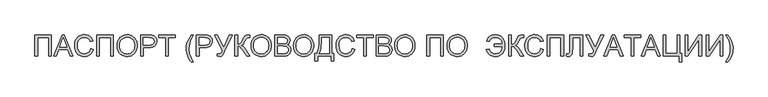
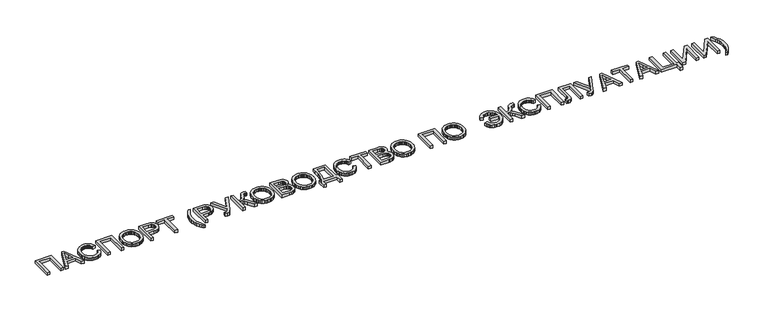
"""IFC4 building model written with IfcOpenShell, lengths in millimetres: proxy geometry, VALTEC_Ссылка : Ссылка на пасорт/Руководство по эксплуатации."""

from ifc_helpers import new_model, si_unit, origin, origin_with_axes, place, context, project, spatial, polyline, outline, extrude, source, transform, mapped, element, save


def generic_models_d957ce8c(model_context):
    return source(origin(), model_context, "Body", "SweptSolid", [
        extrude(outline(polyline([(-65.7596636, 265.5651274), (326.647798, 265.5651274), (326.647798, -236.7164233), (263.8626041, -236.7164233), (263.8626041, 202.7799336), (-2.9744697, 202.7799336), (-2.9744697, -236.7164233), (-65.7596636, -236.7164233), (-65.7596636, 265.5651274)])), origin_with_axes(), (0.0, 0.0, 1.0), 70.0),
        extrude(outline(polyline([(378.02865, -236.7164233), (578.5243373, 265.5651274), (631.989854, 265.5651274), (832.4855413, -236.7164233), (766.1441549, -236.7164233), (708.6319363, -79.7534387), (501.7596277, -79.7534387), (444.3700364, -236.7164233), (378.02865, -236.7164233)]), holes=[polyline([(524.813566, -16.9682449), (685.7006253, -16.9682449), (640.4511398, 106.5174782), (605.2570956, 202.7799336), (573.987126, 117.3086834), (524.813566, -16.9682449)])]), origin_with_axes(), (0.0, 0.0, 1.0), 70.0),
        extrude(outline(polyline([(1252.7294072, -58.1710283), (1315.514601, -74.3578361), (1303.0909194, -113.403145), (1286.5438939, -147.5203679), (1265.8735243, -176.709505), (1241.0798106, -200.9705561), (1212.7222402, -220.0429383), (1181.3603001, -233.6660684), (1146.9939904, -241.8399465), (1109.623311, -244.5645725), (1071.3367588, -242.5029005), (1036.7980044, -236.3178845), (1006.0070478, -226.0095244), (978.9638891, -211.5778203), (955.296814, -193.23737), (934.6341087, -171.2027713), (916.9757729, -145.4740243), (902.3218067, -116.0511289), (890.8139981, -84.2063437), (882.5941348, -51.2119272), (877.6622168, -17.0678796), (876.0182441, 18.2257993), (877.8768146, 56.0946522), (883.4525261, 91.4649732), (892.7453786, 124.3367623), (905.755372, 154.7100196), (922.1912666, 182.0827393), (941.7618223, 205.9529158), (964.4670392, 226.3205492), (990.3069173, 243.1856394), (1018.4039046, 256.4102307), (1047.8804495, 265.8563673), (1078.7365518, 271.5240493), (1110.9722117, 273.4132767), (1146.8828594, 270.9683942), (1179.81213, 263.633747), (1209.7600237, 251.4093348), (1236.7265404, 234.2951578), (1260.2671559, 212.7434043), (1279.9373464, 187.2062625), (1295.7371116, 157.6837323), (1307.6664518, 124.175814), (1244.8812579, 109.2152795), (1234.9944293, 133.9055263), (1223.1149065, 155.0012595), (1209.2426896, 172.502479), (1193.3777786, 186.4091848), (1175.4282029, 197.0049527), (1155.3019921, 204.5733583), (1132.9991461, 209.1144017), (1108.519665, 210.6280828), (1080.3536998, 208.9496212), (1054.5942959, 203.9142364), (1031.2414534, 195.5219284), (1010.2951723, 183.7726972), (992.0198678, 169.1953731), (976.679955, 152.3187866), (964.275434, 133.1429376), (954.8063047, 111.6678261), (942.8041546, 65.7132336), (938.8034379, 18.3484267), (943.5399186, -39.6543012), (957.7493607, -89.8088799), (968.5405659, -111.4641003), (981.9682587, -130.1992573), (998.0324392, -146.014351), (1016.7331072, -158.9093813), (1058.4110716, -176.0618794), (1103.3693171, -181.7793787), (1130.6653947, -179.8326698), (1155.777173, -173.9925431), (1178.7046519, -164.2589987), (1199.4478315, -150.6320364), (1217.5162024, -133.1729701), (1232.4192553, -111.9431133), (1244.1569902, -86.942466), (1252.7294072, -58.1710283)])), origin_with_axes(), (0.0, 0.0, 1.0), 70.0),
        extrude(outline(polyline([(1401.8442425, 265.5651274), (1794.2517041, 265.5651274), (1794.2517041, -236.7164233), (1731.4665102, -236.7164233), (1731.4665102, 202.7799336), (1464.6294364, 202.7799336), (1464.6294364, -236.7164233), (1401.8442425, -236.7164233), (1401.8442425, 265.5651274)])), origin_with_axes(), (0.0, 0.0, 1.0), 70.0),
        extrude(outline(polyline([(1880.5813456, 7.8024761), (1884.7660033, 66.7172448), (1897.3199764, 118.8721819), (1918.2432648, 164.2672872), (1947.5358687, 202.9025609), (1983.4426843, 233.7509991), (2024.2086079, 255.7855977), (2069.8336395, 269.0063569), (2120.3177791, 273.4132767), (2154.1092732, 271.3439404), (2186.1993131, 265.1359318), (2216.5878987, 254.7892507), (2245.2750301, 240.3038971), (2271.4559655, 222.116731), (2294.3259628, 200.6646121), (2313.8850222, 175.9475406), (2330.1331437, 147.9655163), (2342.9017146, 117.3546686), (2352.0221224, 84.7511268), (2357.4943671, 50.1548908), (2359.3184486, 13.5659607), (2357.3985645, -23.5058145), (2351.638912, -58.5695672), (2342.0394912, -91.6252973), (2328.600302, -122.6730048), (2311.6394092, -150.8926195), (2291.4748774, -175.4640711), (2268.1067065, -196.3873596), (2241.5348965, -213.662485), (2212.805612, -227.1821483), (2182.9650172, -236.8390506), (2152.0131123, -242.6331921), (2119.9498971, -244.5645725), (2085.568259, -242.4300906), (2053.0566877, -236.0266446), (2022.4151831, -225.3542346), (1993.6437454, -210.4128607), (1967.4934669, -191.7811704), (1944.7154401, -170.0378117), (1925.3096648, -145.1827844), (1909.2761412, -117.2160886), (1896.7221681, -87.2605307), (1887.7550445, -56.4389173), (1882.3747703, -24.7512483), (1880.5813456, 7.8024761)]), holes=[polyline([(1943.3665394, 7.1893395), (1946.5050327, -34.4349754), (1955.9205125, -71.3841233), (1971.6129789, -103.6581042), (1993.5824318, -131.256918), (2020.2883654, -153.3604946), (2050.1902738, -169.1487635), (2083.288157, -178.6217249), (2119.5820151, -181.7793787), (2156.4966741, -178.5910681), (2189.9854319, -169.0261362), (2220.0482887, -153.0845831), (2246.6852445, -130.7664087), (2268.493749, -102.585115), (2284.0712522, -69.054204), (2293.4177542, -30.1736756), (2296.5332548, 14.0564701), (2291.1989659, 69.6373082), (2275.1960991, 117.6765654), (2263.2974158, 138.5653649), (2248.9385217, 156.9632968), (2232.1194167, 172.870361), (2212.8401009, 186.2865575), (2191.6983825, 196.9359748), (2169.2920697, 204.5427015), (2145.6211626, 209.1067375), (2120.6856611, 210.6280828), (2085.6525653, 207.6965232), (2053.1486582, 198.9018442), (2023.1739398, 184.244046), (1995.7284101, 163.7231284), (1972.8200917, 136.3504087), (1956.4570071, 101.137204), (1946.6391563, 58.0835143), (1943.3665394, 7.1893395)])]), origin_with_axes(), (0.0, 0.0, 1.0), 70.0),
        extrude(outline(polyline([(2445.6480902, -236.7164233), (2445.6480902, 265.5651274), (2631.7963797, 265.5651274), (2706.8443068, 260.7826615), (2740.3062399, 251.8461947), (2767.8514043, 237.2995275), (2790.0316229, 216.4835379), (2807.3987188, 188.7391041), (2818.6191196, 156.012935), (2822.3592532, 120.2517393), (2819.8338966, 89.4186296), (2812.2578268, 61.0533949), (2799.6310437, 35.1560353), (2781.9535474, 11.7265508), (2757.6848321, -7.6945529), (2725.2843918, -21.5667698), (2684.7522265, -29.8900999), (2636.0883363, -32.6645433), (2508.433284, -32.6645433), (2508.433284, -236.7164233), (2445.6480902, -236.7164233)]), holes=[polyline([(2508.433284, 30.1206505), (2639.7671563, 30.1206505), (2669.9641367, 31.5615217), (2695.4399649, 35.8841351), (2716.1946408, 43.0884908), (2732.2281644, 53.1745889), (2744.1919935, 65.8741819), (2752.7375857, 80.9190227), (2757.864941, 98.3091112), (2759.5740594, 118.0444474), (2755.5426859, 146.2487337), (2743.4485653, 170.038436), (2724.7938824, 187.9420264), (2701.0808222, 198.487977), (2638.2956283, 202.7799336), (2508.433284, 202.7799336), (2508.433284, 30.1206505)])]), origin_with_axes(), (0.0, 0.0, 1.0), 70.0),
        extrude(outline(polyline([(3646.4149224, -377.9831095), (3621.0693858, -345.1879624), (3597.7625286, -309.7103425), (3557.2648523, -230.7076841), (3541.3309634, -188.1406715), (3529.9496141, -144.8072382), (3523.1208046, -100.707384), (3520.8445347, -55.841109), (3522.545989, -16.4087577), (3527.6503517, 22.1805308), (3536.1576228, 59.9267563), (3548.0678024, 96.829919), (3566.1706622, 139.1516768), (3588.5961355, 181.3814642), (3615.3442223, 223.5192811), (3646.4149224, 265.5651274), (3693.5038178, 265.5651274), (3634.7653259, 166.1143614), (3614.7157572, 118.9028387), (3599.4486544, 69.7292787), (3587.58446, 6.913428), (3583.6297286, -56.208991), (3585.3465112, -96.4575806), (3590.4968592, -136.6985059), (3599.0807724, -176.931767), (3611.0982509, -217.1573639), (3645.4339038, -297.5855651), (3693.5038178, -377.9831095), (3646.4149224, -377.9831095)])), origin_with_axes(), (0.0, 0.0, 1.0), 70.0),
        extrude(outline(polyline([(3764.1371609, -236.7164233), (3764.1371609, 265.5651274), (3950.2854504, 265.5651274), (4025.3333775, 260.7826615), (4058.7953106, 251.8461947), (4086.340475, 237.2995275), (4108.5206936, 216.4835379), (4125.8877895, 188.7391041), (4137.1081903, 156.012935), (4140.848324, 120.2517393), (4138.3229673, 89.4186296), (4130.7468975, 61.0533949), (4118.1201144, 35.1560353), (4100.4426181, 11.7265508), (4076.1739028, -7.6945529), (4043.7734625, -21.5667698), (4003.2412972, -29.8900999), (3954.5774071, -32.6645433), (3826.9223547, -32.6645433), (3826.9223547, -236.7164233), (3764.1371609, -236.7164233)]), holes=[polyline([(3826.9223547, 30.1206505), (3958.256227, 30.1206505), (3988.4532074, 31.5615217), (4013.9290356, 35.8841351), (4034.6837115, 43.0884908), (4050.7172351, 53.1745889), (4062.6810642, 65.8741819), (4071.2266564, 80.9190227), (4076.3540117, 98.3091112), (4078.0631301, 118.0444474), (4074.0317566, 146.2487337), (4061.937636, 170.038436), (4043.2829531, 187.9420264), (4019.5698929, 198.487977), (3956.784699, 202.7799336), (3826.9223547, 202.7799336), (3826.9223547, 30.1206505)])]), origin_with_axes(), (0.0, 0.0, 1.0), 70.0),
        extrude(outline(polyline([(4191.8612939, 265.5651274), (4261.390991, 265.5651274), (4411.6094724, -31.9287793), (4546.744792, 265.5651274), (4615.6613524, 265.5651274), (4424.9758516, -125.7386881), (4396.1890854, -186.500531), (4373.1044902, -221.8785162), (4361.8917536, -231.8036658), (4348.4870534, -238.8930585), (4315.1017623, -244.5645725), (4258.5705624, -236.7164233), (4258.5705624, -181.7793787), (4307.9893771, -181.7793787), (4327.7630343, -178.2844997), (4344.6549493, -167.7998629), (4360.8724139, -144.8992087), (4378.6227202, -104.1562777), (4191.8612939, 265.5651274)])), origin_with_axes(), (0.0, 0.0, 1.0), 70.0),
        extrude(outline(polyline([(4674.5224716, 265.5651274), (4737.3076655, 265.5651274), (4737.3076655, 45.816949), (4779.8133643, 49.9709498), (4795.5134949, 55.1634509), (4807.5118129, 62.4329524), (4829.9066293, 91.7562131), (4856.5014319, 146.4939883), (4875.5853104, 188.8157462), (4891.1436531, 216.6981357), (4907.8516271, 235.7207006), (4930.3843993, 251.4629843), (4957.132486, 262.0395916), (4986.4864035, 265.5651274), (5027.689187, 264.8293634), (5027.689187, 202.0441696), (5013.8322985, 202.4120516), (4999.97541, 202.7799336), (4971.2193007, 199.0091431), (4950.9244773, 187.6967718), (4933.4500826, 163.9377263), (4913.6457685, 123.072168), (4889.3502284, 72.1818253), (4869.1933607, 44.345421), (4849.3124046, 29.6914549), (4825.844599, 18.3484267), (4850.1631317, 8.0017456), (4874.3130518, -10.0398006), (4898.2943594, -35.7762119), (4922.1070544, -69.2074882), (5027.689187, -236.7164233), (4954.8485519, -236.7164233), (4865.5758544, -95.2044825), (4831.1022458, -49.8170414), (4802.7293469, -21.3215151), (4773.7126546, -6.2843386), (4737.3076655, -1.2719464), (4737.3076655, -236.7164233), (4674.5224716, -236.7164233), (4674.5224716, 265.5651274)])), origin_with_axes(), (0.0, 0.0, 1.0), 70.0),
        extrude(outline(polyline([(5059.0817839, 7.8024761), (5063.2664416, 66.7172448), (5075.8204147, 118.8721819), (5096.7437032, 164.2672872), (5126.036307, 202.9025609), (5161.9431226, 233.7509991), (5202.7090462, 255.7855977), (5248.3340778, 269.0063569), (5298.8182174, 273.4132767), (5332.6097115, 271.3439404), (5364.6997514, 265.1359318), (5395.088337, 254.7892507), (5423.7754685, 240.3038971), (5449.9564038, 222.116731), (5472.8264012, 200.6646121), (5492.3854606, 175.9475406), (5508.633582, 147.9655163), (5521.4021529, 117.3546686), (5530.5225607, 84.7511268), (5535.9948054, 50.1548908), (5537.818887, 13.5659607), (5535.8990028, -23.5058145), (5530.1393503, -58.5695672), (5520.5399295, -91.6252973), (5507.1007404, -122.6730048), (5490.1398476, -150.8926195), (5469.9753157, -175.4640711), (5446.6071448, -196.3873596), (5420.0353348, -213.662485), (5391.3060503, -227.1821483), (5361.4654555, -236.8390506), (5330.5135506, -242.6331921), (5298.4503354, -244.5645725), (5264.0686973, -242.4300906), (5231.557126, -236.0266446), (5200.9156215, -225.3542346), (5172.1441838, -210.4128607), (5145.9939053, -191.7811704), (5123.2158784, -170.0378117), (5103.8101032, -145.1827844), (5087.7765795, -117.2160886), (5075.2226065, -87.2605307), (5066.2554828, -56.4389173), (5060.8752086, -24.7512483), (5059.0817839, 7.8024761)]), holes=[polyline([(5121.8669778, 7.1893395), (5125.005471, -34.4349754), (5134.4209508, -71.3841233), (5150.1134172, -103.6581042), (5172.0828701, -131.256918), (5198.7888037, -153.3604946), (5228.6907121, -169.1487635), (5261.7885954, -178.6217249), (5298.0824534, -181.7793787), (5334.9971124, -178.5910681), (5368.4858703, -169.0261362), (5398.5487271, -153.0845831), (5425.1856828, -130.7664087), (5446.9941873, -102.585115), (5462.5716905, -69.054204), (5471.9181925, -30.1736756), (5475.0336931, 14.0564701), (5469.6994042, 69.6373082), (5453.6965374, 117.6765654), (5441.7978541, 138.5653649), (5427.43896, 156.9632968), (5410.619855, 172.870361), (5391.3405392, 186.2865575), (5370.1988208, 196.9359748), (5347.792508, 204.5427015), (5324.1216009, 209.1067375), (5299.1860994, 210.6280828), (5264.1530036, 207.6965232), (5231.6490965, 198.9018442), (5201.6743781, 184.244046), (5174.2288484, 163.7231284), (5151.32053, 136.3504087), (5134.9574454, 101.137204), (5125.1395947, 58.0835143), (5121.8669778, 7.1893395)])]), origin_with_axes(), (0.0, 0.0, 1.0), 70.0),
        extrude(outline(polyline([(5624.1485285, -236.7164233), (5624.1485285, 265.5651274), (5815.815048, 265.5651274), (5868.5294722, 261.8709791), (5909.6862704, 250.788534), (5941.2321515, 232.0418806), (5965.1138244, 205.3551076), (5980.1510009, 173.9625106), (5985.1633931, 141.0983857), (5980.9480786, 110.85542), (5968.302135, 82.4212075), (5947.1335919, 57.5431876), (5917.3504787, 37.9687997), (5936.3002335, 29.8907243), (5952.9277333, 19.390759), (5967.2329779, 6.4689039), (5979.2159675, -8.874841), (5995.4487606, -44.9579333), (6000.8596916, -86.9884513), (5997.1655432, -122.0138829), (5986.0830981, -154.4947974), (5969.5437367, -182.1166039), (5949.4788396, -202.5647114), (5924.907388, -217.3719617), (5894.8483633, -228.0711964), (5858.3207469, -234.5551166), (5814.34352, -236.7164233), (5624.1485285, -236.7164233)]), holes=[polyline([(5686.9337223, 61.5132474), (5801.5902775, 61.5132474), (5841.689415, 62.8621481), (5868.5448006, 66.90885), (5891.9819494, 76.2131988), (5908.8278791, 90.1467294), (5918.9906192, 108.4948439), (5922.3781993, 131.0429445), (5919.2205455, 152.9319232), (5909.7475841, 172.0004733), (5894.3885108, 186.8843657), (5873.5725212, 196.2193713), (5841.6281013, 201.139793), (5792.883737, 202.7799336), (5686.9337223, 202.7799336), (5686.9337223, 61.5132474)]), polyline([(5686.9337223, -173.9312295), (5815.6924207, -173.9312295), (5862.2908067, -171.4786828), (5883.9192023, -166.037095), (5901.7154939, -157.8057354), (5916.185519, -146.0181831), (5927.8351155, -129.9080174), (5935.5146522, -110.1956738), (5938.0744977, -87.6015879), (5935.0701281, -61.3593389), (5926.0570192, -38.7959099), (5910.3147355, -21.1529026), (5887.1228414, -9.6719186), (5854.2740449, -3.3719395), (5809.5610541, -1.2719464), (5686.9337223, -1.2719464), (5686.9337223, -173.9312295)])]), origin_with_axes(), (0.0, 0.0, 1.0), 70.0),
        extrude(outline(polyline([(6063.6448854, 7.8024761), (6067.8295431, 66.7172448), (6080.3835162, 118.8721819), (6101.3068047, 164.2672872), (6130.5994085, 202.9025609), (6166.5062241, 233.7509991), (6207.2721477, 255.7855977), (6252.8971793, 269.0063569), (6303.3813189, 273.4132767), (6337.172813, 271.3439404), (6369.2628529, 265.1359318), (6399.6514385, 254.7892507), (6428.33857, 240.3038971), (6454.5195053, 222.116731), (6477.3895027, 200.6646121), (6496.9485621, 175.9475406), (6513.1966835, 147.9655163), (6525.9652544, 117.3546686), (6535.0856622, 84.7511268), (6540.5579069, 50.1548908), (6542.3819885, 13.5659607), (6540.4621043, -23.5058145), (6534.7024518, -58.5695672), (6525.103031, -91.6252973), (6511.6638419, -122.6730048), (6494.702949, -150.8926195), (6474.5384172, -175.4640711), (6451.1702463, -196.3873596), (6424.5984363, -213.662485), (6395.8691518, -227.1821483), (6366.028557, -236.8390506), (6335.0766521, -242.6331921), (6303.0134369, -244.5645725), (6268.6317988, -242.4300906), (6236.1202275, -236.0266446), (6205.478723, -225.3542346), (6176.7072853, -210.4128607), (6150.5570068, -191.7811704), (6127.7789799, -170.0378117), (6108.3732047, -145.1827844), (6092.339681, -117.2160886), (6079.7857079, -87.2605307), (6070.8185843, -56.4389173), (6065.4383101, -24.7512483), (6063.6448854, 7.8024761)]), holes=[polyline([(6126.4300793, 7.1893395), (6129.5685725, -34.4349754), (6138.9840523, -71.3841233), (6154.6765187, -103.6581042), (6176.6459716, -131.256918), (6203.3519052, -153.3604946), (6233.2538136, -169.1487635), (6266.3516969, -178.6217249), (6302.6455549, -181.7793787), (6339.5602139, -178.5910681), (6373.0489718, -169.0261362), (6403.1118286, -153.0845831), (6429.7487843, -130.7664087), (6451.5572888, -102.585115), (6467.134792, -69.054204), (6476.481294, -30.1736756), (6479.5967946, 14.0564701), (6474.2625057, 69.6373082), (6458.2596389, 117.6765654), (6446.3609556, 138.5653649), (6432.0020615, 156.9632968), (6415.1829565, 172.870361), (6395.9036407, 186.2865575), (6374.7619223, 196.9359748), (6352.3556095, 204.5427015), (6328.6847024, 209.1067375), (6303.7492009, 210.6280828), (6268.7161051, 207.6965232), (6236.212198, 198.9018442), (6206.2374796, 184.244046), (6178.7919499, 163.7231284), (6155.8836315, 136.3504087), (6139.5205469, 101.137204), (6129.7026962, 58.0835143), (6126.4300793, 7.1893395)])]), origin_with_axes(), (0.0, 0.0, 1.0), 70.0),
        extrude(outline(polyline([(6675.8005254, 265.5651274), (6974.0301961, 265.5651274), (6974.0301961, -173.9312295), (7021.1190915, -173.9312295), (7021.1190915, -354.4386618), (6958.3338977, -354.4386618), (6958.3338977, -236.7164233), (6636.5597792, -236.7164233), (6636.5597792, -354.4386618), (6573.7745854, -354.4386618), (6573.7745854, -173.9312295), (6613.0153315, -173.9312295), (6627.7306113, -148.3500184), (6640.4838538, -116.9784981), (6651.275059, -79.8166684), (6660.1042269, -36.8645294), (6671.8764508, 66.4106765), (6675.8005254, 192.8471197), (6675.8005254, 265.5651274)]), holes=[polyline([(6911.2450023, 202.7799336), (6738.5857192, 202.7799336), (6738.5857192, 177.5187033), (6735.3974086, 103.0532561), (6725.8324767, 5.4725568), (6717.9230138, -46.6670518), (6706.9478676, -93.9475524), (6692.9070382, -136.3689449), (6675.8005254, -173.9312295), (6911.2450023, -173.9312295), (6911.2450023, 202.7799336)])]), origin_with_axes(), (0.0, 0.0, 1.0), 70.0),
        extrude(outline(polyline([(7452.7672992, -58.1710283), (7515.552493, -74.3578361), (7503.1288115, -113.403145), (7486.5817859, -147.5203679), (7465.9114163, -176.709505), (7441.1177027, -200.9705561), (7412.7601322, -220.0429383), (7381.3981921, -233.6660684), (7347.0318824, -241.8399465), (7309.6612031, -244.5645725), (7271.3746508, -242.5029005), (7236.8358964, -236.3178845), (7206.0449399, -226.0095244), (7179.0017811, -211.5778203), (7155.3347061, -193.23737), (7134.6720007, -171.2027713), (7117.0136649, -145.4740243), (7102.3596988, -116.0511289), (7090.8518901, -84.2063437), (7082.6320268, -51.2119272), (7077.7001088, -17.0678796), (7076.0561361, 18.2257993), (7077.9147066, 56.0946522), (7083.4904181, 91.4649732), (7092.7832706, 124.3367623), (7105.7932641, 154.7100196), (7122.2291586, 182.0827393), (7141.7997144, 205.9529158), (7164.5049312, 226.3205492), (7190.3448093, 243.1856394), (7218.4417967, 256.4102307), (7247.9183415, 265.8563673), (7278.7744439, 271.5240493), (7311.0101037, 273.4132767), (7346.9207514, 270.9683942), (7379.8500221, 263.633747), (7409.7979157, 251.4093348), (7436.7644324, 234.2951578), (7460.305048, 212.7434043), (7479.9752384, 187.2062625), (7495.7750037, 157.6837323), (7507.7043438, 124.175814), (7444.91915, 109.2152795), (7435.0323213, 133.9055263), (7423.1527986, 155.0012595), (7409.2805817, 172.502479), (7393.4156706, 186.4091848), (7375.466095, 197.0049527), (7355.3398841, 204.5733583), (7333.0370382, 209.1144017), (7308.5575571, 210.6280828), (7280.3915918, 208.9496212), (7254.632188, 203.9142364), (7231.2793455, 195.5219284), (7210.3330644, 183.7726972), (7192.0577598, 169.1953731), (7176.7178471, 152.3187866), (7164.313326, 133.1429376), (7154.8441968, 111.6678261), (7142.8420467, 65.7132336), (7138.84133, 18.3484267), (7143.5778107, -39.6543012), (7157.7872527, -89.8088799), (7168.5784579, -111.4641003), (7182.0061507, -130.1992573), (7198.0703312, -146.014351), (7216.7709993, -158.9093813), (7258.4489637, -176.0618794), (7303.4072092, -181.7793787), (7330.7032868, -179.8326698), (7355.8150651, -173.9925431), (7378.742544, -164.2589987), (7399.4857236, -150.6320364), (7417.5540945, -133.1729701), (7432.4571474, -111.9431133), (7444.1948823, -86.942466), (7452.7672992, -58.1710283)])), origin_with_axes(), (0.0, 0.0, 1.0), 70.0),
        extrude(outline(polyline([(7727.4525223, -236.7164233), (7727.4525223, 202.7799336), (7562.6413884, 202.7799336), (7562.6413884, 265.5651274), (7955.0488499, 265.5651274), (7955.0488499, 202.7799336), (7790.2377161, 202.7799336), (7790.2377161, -236.7164233), (7727.4525223, -236.7164233)])), origin_with_axes(), (0.0, 0.0, 1.0), 70.0),
        extrude(outline(polyline([(8025.682193, -236.7164233), (8025.682193, 265.5651274), (8217.3487125, 265.5651274), (8270.0631367, 261.8709791), (8311.2199349, 250.788534), (8342.765816, 232.0418806), (8366.6474889, 205.3551076), (8381.6846654, 173.9625106), (8386.6970576, 141.0983857), (8382.4817431, 110.85542), (8369.8357995, 82.4212075), (8348.6672564, 57.5431876), (8318.8841432, 37.9687997), (8337.833898, 29.8907243), (8354.4613978, 19.390759), (8368.7666425, 6.4689039), (8380.749632, -8.874841), (8396.9824251, -44.9579333), (8402.3933561, -86.9884513), (8398.6992077, -122.0138829), (8387.6167626, -154.4947974), (8371.0774012, -182.1166039), (8351.0125041, -202.5647114), (8326.4410525, -217.3719617), (8296.3820278, -228.0711964), (8259.8544114, -234.5551166), (8215.8771845, -236.7164233), (8025.682193, -236.7164233)]), holes=[polyline([(8088.4673869, 61.5132474), (8203.123942, 61.5132474), (8243.2230795, 62.8621481), (8270.0784651, 66.90885), (8293.5156139, 76.2131988), (8310.3615436, 90.1467294), (8320.5242837, 108.4948439), (8323.9118638, 131.0429445), (8320.75421, 152.9319232), (8311.2812486, 172.0004733), (8295.9221753, 186.8843657), (8275.1061857, 196.2193713), (8243.1617658, 201.139793), (8194.4174015, 202.7799336), (8088.4673869, 202.7799336), (8088.4673869, 61.5132474)]), polyline([(8088.4673869, -173.9312295), (8217.2260852, -173.9312295), (8263.8244712, -171.4786828), (8285.4528669, -166.037095), (8303.2491584, -157.8057354), (8317.7191835, -146.0181831), (8329.36878, -129.9080174), (8337.0483167, -110.1956738), (8339.6081622, -87.6015879), (8336.6037926, -61.3593389), (8327.5906837, -38.7959099), (8311.8484, -21.1529026), (8288.6565059, -9.6719186), (8255.8077094, -3.3719395), (8211.0947186, -1.2719464), (8088.4673869, -1.2719464), (8088.4673869, -173.9312295)])]), origin_with_axes(), (0.0, 0.0, 1.0), 70.0),
        extrude(outline(polyline([(8465.1785499, 7.8024761), (8469.3632076, 66.7172448), (8481.9171807, 118.8721819), (8502.8404692, 164.2672872), (8532.133073, 202.9025609), (8568.0398886, 233.7509991), (8608.8058122, 255.7855977), (8654.4308438, 269.0063569), (8704.9149834, 273.4132767), (8738.7064775, 271.3439404), (8770.7965174, 265.1359318), (8801.1851031, 254.7892507), (8829.8722345, 240.3038971), (8856.0531698, 222.116731), (8878.9231672, 200.6646121), (8898.4822266, 175.9475406), (8914.730348, 147.9655163), (8927.4989189, 117.3546686), (8936.6193267, 84.7511268), (8942.0915714, 50.1548908), (8943.915653, 13.5659607), (8941.9957688, -23.5058145), (8936.2361163, -58.5695672), (8926.6366955, -91.6252973), (8913.1975064, -122.6730048), (8896.2366136, -150.8926195), (8876.0720817, -175.4640711), (8852.7039108, -196.3873596), (8826.1321009, -213.662485), (8797.4028163, -227.1821483), (8767.5622215, -236.8390506), (8736.6103166, -242.6331921), (8704.5471015, -244.5645725), (8670.1654633, -242.4300906), (8637.653892, -236.0266446), (8607.0123875, -225.3542346), (8578.2409498, -210.4128607), (8552.0906713, -191.7811704), (8529.3126444, -170.0378117), (8509.9068692, -145.1827844), (8493.8733455, -117.2160886), (8481.3193725, -87.2605307), (8472.3522488, -56.4389173), (8466.9719746, -24.7512483), (8465.1785499, 7.8024761)]), holes=[polyline([(8527.9637438, 7.1893395), (8531.102237, -34.4349754), (8540.5177169, -71.3841233), (8556.2101832, -103.6581042), (8578.1796361, -131.256918), (8604.8855697, -153.3604946), (8634.7874781, -169.1487635), (8667.8853614, -178.6217249), (8704.1792195, -181.7793787), (8741.0938784, -178.5910681), (8774.5826363, -169.0261362), (8804.6454931, -153.0845831), (8831.2824488, -130.7664087), (8853.0909533, -102.585115), (8868.6684565, -69.054204), (8878.0149585, -30.1736756), (8881.1304591, 14.0564701), (8875.7961702, 69.6373082), (8859.7933034, 117.6765654), (8847.8946201, 138.5653649), (8833.535726, 156.9632968), (8816.716621, 172.870361), (8797.4373052, 186.2865575), (8776.2955868, 196.9359748), (8753.8892741, 204.5427015), (8730.2183669, 209.1067375), (8705.2828654, 210.6280828), (8670.2497696, 207.6965232), (8637.7458625, 198.9018442), (8607.7711441, 184.244046), (8580.3256144, 163.7231284), (8557.417296, 136.3504087), (8541.0542114, 101.137204), (8531.2363607, 58.0835143), (8527.9637438, 7.1893395)])]), origin_with_axes(), (0.0, 0.0, 1.0), 70.0),
        extrude(outline(polyline([(9705.1861283, 7.8024761), (9709.370786, 66.7172448), (9721.9247591, 118.8721819), (9742.8480476, 164.2672872), (9772.1406515, 202.9025609), (9808.047467, 233.7509991), (9848.8133906, 255.7855977), (9894.4384222, 269.0063569), (9944.9225619, 273.4132767), (9978.714056, 271.3439404), (10010.8040958, 265.1359318), (10041.1926815, 254.7892507), (10069.8798129, 240.3038971), (10096.0607482, 222.116731), (10118.9307456, 200.6646121), (10138.489805, 175.9475406), (10154.7379264, 147.9655163), (10167.5064974, 117.3546686), (10176.6269052, 84.7511268), (10182.0991498, 50.1548908), (10183.9232314, 13.5659607), (10182.0033472, -23.5058145), (10176.2436947, -58.5695672), (10166.6442739, -91.6252973), (10153.2050848, -122.6730048), (10136.244192, -150.8926195), (10116.0796601, -175.4640711), (10092.7114892, -196.3873596), (10066.1396793, -213.662485), (10037.4103947, -227.1821483), (10007.5698, -236.8390506), (9976.617895, -242.6331921), (9944.5546799, -244.5645725), (9910.1730417, -242.4300906), (9877.6614704, -236.0266446), (9847.0199659, -225.3542346), (9818.2485282, -210.4128607), (9792.0982497, -191.7811704), (9769.3202228, -170.0378117), (9749.9144476, -145.1827844), (9733.880924, -117.2160886), (9721.3269509, -87.2605307), (9712.3598272, -56.4389173), (9706.9795531, -24.7512483), (9705.1861283, 7.8024761)]), holes=[polyline([(9767.9713222, 7.1893395), (9771.1098154, -34.4349754), (9780.5252953, -71.3841233), (9796.2177616, -103.6581042), (9818.1872145, -131.256918), (9844.8931481, -153.3604946), (9874.7950565, -169.1487635), (9907.8929398, -178.6217249), (9944.1867979, -181.7793787), (9981.1014568, -178.5910681), (10014.5902147, -169.0261362), (10044.6530715, -153.0845831), (10071.2900272, -130.7664087), (10093.0985317, -102.585115), (10108.676035, -69.054204), (10118.0225369, -30.1736756), (10121.1380375, 14.0564701), (10115.8037486, 69.6373082), (10099.8008818, 117.6765654), (10087.9021985, 138.5653649), (10073.5433044, 156.9632968), (10056.7241995, 172.870361), (10037.4448836, 186.2865575), (10016.3031652, 196.9359748), (9993.8968525, 204.5427015), (9970.2259453, 209.1067375), (9945.2904439, 210.6280828), (9910.257348, 207.6965232), (9877.7534409, 198.9018442), (9847.7787225, 184.244046), (9820.3331928, 163.7231284), (9797.4248744, 136.3504087), (9781.0617898, 101.137204), (9771.2439391, 58.0835143), (9767.9713222, 7.1893395)])]), origin_with_axes(), (0.0, 0.0, 1.0), 70.0),
        extrude(outline(polyline([(10827.4714683, 53.6650982), (11015.8270498, 53.6650982), (11011.3281596, 87.9126127), (11002.0008182, 118.4276578), (10987.8450256, 145.2102334), (10968.8607818, 168.2603397), (10945.423633, 186.7962273), (10917.9091254, 200.036147), (10886.3172591, 207.9800989), (10850.648034, 210.6280828), (10824.0091622, 209.0339275), (10799.9492965, 204.2514616), (10778.4684369, 196.280685), (10759.5665833, 185.1215978), (10743.2437359, 170.7742), (10729.4998944, 153.2384916), (10718.3350591, 132.5144725), (10709.7492298, 108.6021428), (10646.964036, 124.2984413), (10658.2764073, 157.4538061), (10673.8194216, 186.7770668), (10693.5930789, 212.2682234), (10717.5973791, 233.9272758), (10745.3034918, 251.2024012), (10776.1825868, 263.5417765), (10810.234664, 270.9454016), (10847.4597234, 273.4132767), (10882.9680001, 271.1485031), (10915.9164313, 264.3541825), (10946.3050169, 253.0303149), (10974.133757, 237.1769001), (10998.9696238, 217.8017817), (11020.3795895, 195.912803), (11038.3636541, 171.509964), (11052.9218177, 144.5932647), (11064.161379, 115.6723749), (11072.1896372, 85.2569645), (11077.006592, 53.3470336), (11078.6122437, 19.942582), (11076.6578706, -33.756693), (11066.993304, -83.0183914), (11049.6185439, -127.8425133), (11024.5335904, -168.2290585), (10991.799757, -201.6258459), (10951.4783575, -225.480694), (10903.5693918, -239.7936029), (10848.07286, -244.5645725), (10808.5945234, -241.9893986), (10772.9329625, -234.2638767), (10741.0881773, -221.3880069), (10713.0601678, -203.3617891), (10688.848934, -180.1852234), (10668.4544759, -151.8583098), (10651.8767935, -118.3810482), (10639.1158868, -79.7534387), (10701.9010806, -64.0571402), (10711.0828021, -91.6482899), (10723.115609, -115.5606196), (10737.9995014, -135.7941293), (10755.7344792, -152.3488191), (10776.3205425, -165.2246889), (10799.7576913, -174.4217388), (10826.0459256, -179.9399687), (10855.1852453, -181.7793787), (10888.0340417, -178.8899722), (10917.7864981, -170.2217527), (10944.4426143, -155.7747202), (10968.0023904, -135.5488746), (10987.5001362, -110.3106369), (11001.9701613, -80.8264279), (11011.4124659, -47.0962474), (11015.8270498, -9.1200956), (10827.4714683, -9.1200956), (10827.4714683, 53.6650982)])), origin_with_axes(), (0.0, 0.0, 1.0), 70.0),
        extrude(outline(polyline([(11164.9418852, 265.5651274), (11227.727079, 265.5651274), (11227.727079, 45.816949), (11270.2327779, 49.9709498), (11285.9329085, 55.1634509), (11297.9312264, 62.4329524), (11320.3260429, 91.7562131), (11346.9208455, 146.4939883), (11366.004724, 188.8157462), (11381.5630667, 216.6981357), (11398.2710406, 235.7207006), (11420.8038128, 251.4629843), (11447.5518996, 262.0395916), (11476.9058171, 265.5651274), (11518.1086006, 264.8293634), (11518.1086006, 202.0441696), (11504.2517121, 202.4120516), (11490.3948236, 202.7799336), (11461.6387143, 199.0091431), (11441.3438909, 187.6967718), (11423.8694961, 163.9377263), (11404.0651821, 123.072168), (11379.769642, 72.1818253), (11359.6127743, 44.345421), (11339.7318182, 29.6914549), (11316.2640125, 18.3484267), (11340.5825453, 8.0017456), (11364.7324654, -10.0398006), (11388.713773, -35.7762119), (11412.5264679, -69.2074882), (11518.1086006, -236.7164233), (11445.2679655, -236.7164233), (11355.995268, -95.2044825), (11321.5216594, -49.8170414), (11293.1487605, -21.3215151), (11264.1320681, -6.2843386), (11227.727079, -1.2719464), (11227.727079, -236.7164233), (11164.9418852, -236.7164233), (11164.9418852, 265.5651274)])), origin_with_axes(), (0.0, 0.0, 1.0), 70.0),
        extrude(outline(polyline([(11926.2123605, -58.1710283), (11988.9975544, -74.3578361), (11976.5738728, -113.403145), (11960.0268473, -147.5203679), (11939.3564777, -176.709505), (11914.562764, -200.9705561), (11886.2051936, -220.0429383), (11854.8432535, -233.6660684), (11820.4769438, -241.8399465), (11783.1062644, -244.5645725), (11744.8197122, -242.5029005), (11710.2809578, -236.3178845), (11679.4900012, -226.0095244), (11652.4468425, -211.5778203), (11628.7797674, -193.23737), (11608.117062, -171.2027713), (11590.4587263, -145.4740243), (11575.8047601, -116.0511289), (11564.2969515, -84.2063437), (11556.0770881, -51.2119272), (11551.1451702, -17.0678796), (11549.5011975, 18.2257993), (11551.359768, 56.0946522), (11556.9354795, 91.4649732), (11566.228332, 124.3367623), (11579.2383254, 154.7100196), (11595.67422, 182.0827393), (11615.2447757, 205.9529158), (11637.9499926, 226.3205492), (11663.7898707, 243.1856394), (11691.886858, 256.4102307), (11721.3634029, 265.8563673), (11752.2195052, 271.5240493), (11784.4551651, 273.4132767), (11820.3658127, 270.9683942), (11853.2950834, 263.633747), (11883.2429771, 251.4093348), (11910.2094938, 234.2951578), (11933.7501093, 212.7434043), (11953.4202998, 187.2062625), (11969.220065, 157.6837323), (11981.1494052, 124.175814), (11918.3642113, 109.2152795), (11908.4773827, 133.9055263), (11896.5978599, 155.0012595), (11882.725643, 172.502479), (11866.860732, 186.4091848), (11848.9111563, 197.0049527), (11828.7849455, 204.5733583), (11806.4820995, 209.1144017), (11782.0026184, 210.6280828), (11753.8366532, 208.9496212), (11728.0772493, 203.9142364), (11704.7244068, 195.5219284), (11683.7781257, 183.7726972), (11665.5028212, 169.1953731), (11650.1629084, 152.3187866), (11637.7583874, 133.1429376), (11628.2892581, 111.6678261), (11616.287108, 65.7132336), (11612.2863913, 18.3484267), (11617.022872, -39.6543012), (11631.2323141, -89.8088799), (11642.0235193, -111.4641003), (11655.4512121, -130.1992573), (11671.5153926, -146.014351), (11690.2160606, -158.9093813), (11731.894025, -176.0618794), (11776.8522705, -181.7793787), (11804.1483481, -179.8326698), (11829.2601264, -173.9925431), (11852.1876053, -164.2589987), (11872.9307849, -150.6320364), (11890.9991558, -133.1729701), (11905.9022087, -111.9431133), (11917.6399436, -86.942466), (11926.2123605, -58.1710283)])), origin_with_axes(), (0.0, 0.0, 1.0), 70.0),
        extrude(outline(polyline([(12616.8494928, 265.5651274), (12922.9273128, 265.5651274), (12922.9273128, -236.7164233), (12860.142119, -236.7164233), (12860.142119, 202.7799336), (12679.6346867, 202.7799336), (12679.6346867, -53.5111897), (12677.8106051, -121.0941779), (12672.3383604, -167.8611766), (12661.0413175, -200.1734785), (12641.7428412, -224.3923765), (12615.3166512, -239.5215235), (12582.6364673, -244.5645725), (12558.7547944, -242.6025352), (12530.5198513, -236.7164233), (12538.3680005, -173.9312295), (12568.4116968, -181.7793787), (12589.6415536, -177.5640642), (12604.7707006, -164.9181206), (12610.0551722, -153.632574), (12613.8297948, -136.6371922), (12616.8494928, -85.5169233), (12616.8494928, 265.5651274)])), origin_with_axes(), (0.0, 0.0, 1.0), 70.0),
        extrude(outline(polyline([(12997.4847305, 265.5651274), (13067.0144276, 265.5651274), (13217.232909, -31.9287793), (13352.3682285, 265.5651274), (13421.2847889, 265.5651274), (13230.5992881, -125.7386881), (13201.812522, -186.500531), (13178.7279268, -221.8785162), (13167.5151901, -231.8036658), (13154.1104899, -238.8930585), (13120.7251989, -244.5645725), (13064.193999, -236.7164233), (13064.193999, -181.7793787), (13113.6128136, -181.7793787), (13133.3864709, -178.2844997), (13150.2783858, -167.7998629), (13166.4958505, -144.8992087), (13184.2461567, -104.1562777), (12997.4847305, 265.5651274)])), origin_with_axes(), (0.0, 0.0, 1.0), 70.0),
        extrude(outline(polyline([(13421.6526709, -236.7164233), (13622.1483583, 265.5651274), (13675.6138749, 265.5651274), (13876.1095623, -236.7164233), (13809.7681759, -236.7164233), (13752.2559573, -79.7534387), (13545.3836487, -79.7534387), (13487.9940574, -236.7164233), (13421.6526709, -236.7164233)]), holes=[polyline([(13568.437587, -16.9682449), (13729.3246462, -16.9682449), (13684.0751608, 106.5174782), (13648.8811166, 202.7799336), (13617.611147, 117.3086834), (13568.437587, -16.9682449)])]), origin_with_axes(), (0.0, 0.0, 1.0), 70.0),
        extrude(outline(polyline([(14068.7571005, -236.7164233), (14068.7571005, 202.7799336), (13903.9459666, 202.7799336), (13903.9459666, 265.5651274), (14296.3534281, 265.5651274), (14296.3534281, 202.7799336), (14131.5422943, 202.7799336), (14131.5422943, -236.7164233), (14068.7571005, -236.7164233)])), origin_with_axes(), (0.0, 0.0, 1.0), 70.0),
        extrude(outline(polyline([(3034.2592825, -236.7164233), (3034.2592825, 202.7799336), (2869.4481486, 202.7799336), (2869.4481486, 265.5651274), (3261.8556101, 265.5651274), (3261.8556101, 202.7799336), (3097.0444763, 202.7799336), (3097.0444763, -236.7164233), (3034.2592825, -236.7164233)])), origin_with_axes(), (0.0, 0.0, 1.0), 70.0),
        extrude(outline(polyline([(9226.4490253, 265.5651274), (9618.8564868, 265.5651274), (9618.8564868, -236.7164233), (9556.071293, -236.7164233), (9556.071293, 202.7799336), (9289.2342191, 202.7799336), (9289.2342191, -236.7164233), (9226.4490253, -236.7164233), (9226.4490253, 265.5651274)])), origin_with_axes(), (0.0, 0.0, 1.0), 70.0),
        extrude(outline(polyline([(12075.3271959, 265.5651274), (12467.7346574, 265.5651274), (12467.7346574, -236.7164233), (12404.9494636, -236.7164233), (12404.9494636, 202.7799336), (12138.1123898, 202.7799336), (12138.1123898, -236.7164233), (12075.3271959, -236.7164233), (12075.3271959, 265.5651274)])), origin_with_axes(), (0.0, 0.0, 1.0), 70.0),
        extrude(outline(polyline([(14308.493534, -236.7164233), (14508.9892214, 265.5651274), (14562.454738, 265.5651274), (14762.9504254, -236.7164233), (14696.6090389, -236.7164233), (14639.0968203, -79.7534387), (14432.2245117, -79.7534387), (14374.8349204, -236.7164233), (14308.493534, -236.7164233)]), holes=[polyline([(14455.2784501, -16.9682449), (14616.1655093, -16.9682449), (14570.9160239, 106.5174782), (14535.7219797, 202.7799336), (14504.4520101, 117.3086834), (14455.2784501, -16.9682449)])]), origin_with_axes(), (0.0, 0.0, 1.0), 70.0),
        extrude(outline(polyline([(14830.0275758, 265.5651274), (14892.8127697, 265.5651274), (14892.8127697, -173.9312295), (15159.6498435, -173.9312295), (15159.6498435, 265.5651274), (15222.4350373, 265.5651274), (15222.4350373, -173.9312295), (15269.5239327, -173.9312295), (15269.5239327, -377.9831095), (15206.7387389, -377.9831095), (15206.7387389, -236.7164233), (14830.0275758, -236.7164233), (14830.0275758, 265.5651274)])), origin_with_axes(), (0.0, 0.0, 1.0), 70.0),
        extrude(outline(polyline([(15348.005425, 265.5651274), (15410.7906189, 265.5651274), (15410.7906189, -132.2379367), (15673.7036181, 265.5651274), (15740.4128865, 265.5651274), (15740.4128865, -236.7164233), (15677.6276927, -236.7164233), (15677.6276927, 159.9829948), (15415.3278301, -236.7164233), (15348.005425, -236.7164233), (15348.005425, 265.5651274)])), origin_with_axes(), (0.0, 0.0, 1.0), 70.0),
        extrude(outline(polyline([(15850.2869758, 265.5651274), (15913.0721696, 265.5651274), (15913.0721696, -132.2379367), (16175.9851688, 265.5651274), (16242.6944373, 265.5651274), (16242.6944373, -236.7164233), (16179.9092434, -236.7164233), (16179.9092434, 159.9829948), (15917.6093809, -236.7164233), (15850.2869758, -236.7164233), (15850.2869758, 265.5651274)])), origin_with_axes(), (0.0, 0.0, 1.0), 70.0),
        extrude(outline(polyline([(16360.4166757, -377.9831095), (16313.3277804, -377.9831095), (16361.3976944, -297.5855651), (16395.7333473, -217.1573639), (16407.7508258, -176.931767), (16416.334739, -136.6985059), (16421.4850869, -96.4575806), (16423.2018696, -56.208991), (16419.2471381, 6.4535755), (16407.3829438, 68.6256327), (16392.3917525, 117.8911632), (16372.4341543, 165.1333427), (16313.3277804, 265.5651274), (16360.4166757, 265.5651274), (16391.4873759, 223.5192811), (16418.2354627, 181.3814642), (16440.6609359, 139.1516768), (16458.7637958, 96.829919), (16470.6739754, 59.9267563), (16479.1812465, 22.1805308), (16484.2856092, -16.4087577), (16485.9870634, -55.841109), (16483.6992973, -100.707384), (16476.8359988, -144.8072382), (16465.397168, -188.1406715), (16449.3828049, -230.7076841), (16408.8391434, -309.7103425), (16360.4166757, -377.9831095)])), origin_with_axes(), (0.0, 0.0, 1.0), 70.0),
    ])


if __name__ == "__main__":
    model = new_model("IFC4")
    model_context = context("Model", 3, world=origin())
    ifc_project = project(units=[si_unit("LENGTHUNIT", "METRE", prefix="MILLI")], contexts=[model_context])
    site = spatial("IfcSite", under=ifc_project)
    building = spatial("IfcBuilding", under=site)
    placement = place(None, origin())
    generic_models_shape = generic_models_d957ce8c(model_context)
    element("IfcBuildingElementProxy", 1, Name="VALTEC_Ссылка : Ссылка на пасорт/Руководство по эксплуатации", ObjectType="VALTEC_Ссылка : Ссылка на пасорт/Руководство по эксплуатации", at=placement, inside=building, context=model_context, shape_type="MappedRepresentation", body=[
        mapped(generic_models_shape, transform((0.0, 0.0, 0.0), x_axis=(1.0, 0.0, 0.0), y_axis=(0.0, 1.0, 0.0), z_axis=(0.0, 0.0, 1.0))),
    ])
    save(model, "model.ifc")
